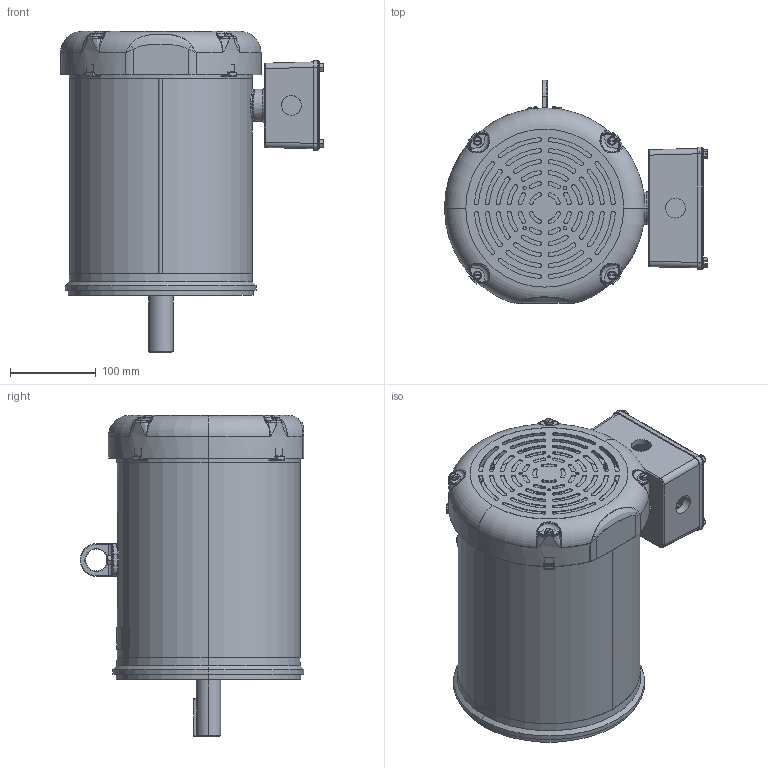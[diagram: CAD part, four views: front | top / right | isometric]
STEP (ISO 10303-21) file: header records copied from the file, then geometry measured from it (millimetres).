
FILE_DESCRIPTION (( 'STEP AP203' ), '1' );
FILE_NAME ('035438-900_RevD.STEP', '2018-02-28T06:13:57', ( '' ), ( '' ), 'SwSTEP 2.0', 'SolidWorks 2015', '' );
FILE_SCHEMA (( 'CONFIG_CONTROL_DESIGN' ));
Length unit declared in the file: inch
Products named in the file (1): 035438-900_RevD
Bounding box: 307.12 x 261.43 x 375.15 mm (x, y, z)
Volume: 1748861.7 mm3; surface area: 908667.4 mm2
Topology: 31 solids, 31 shells, 3106 faces, 7401 edges, 4328 vertices
Faces by surface type: cylinder 968, bspline 657, plane 561, torus 468, cone 281, sphere 171
Entity records: 115666 total; most frequent: CARTESIAN_POINT 47764, ORIENTED_EDGE 14560, DIRECTION 14151, EDGE_CURVE 7280, AXIS2_PLACEMENT_3D 6064, VERTEX_POINT 4313, CIRCLE 3614, EDGE_LOOP 3363
